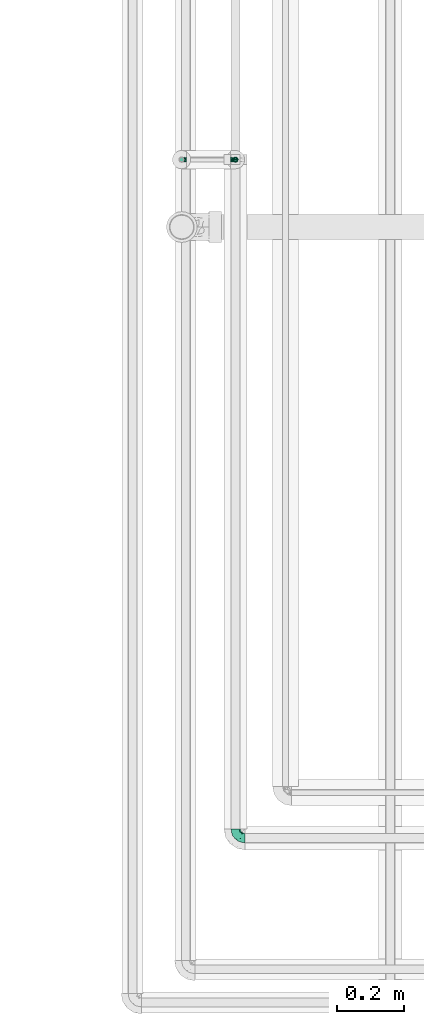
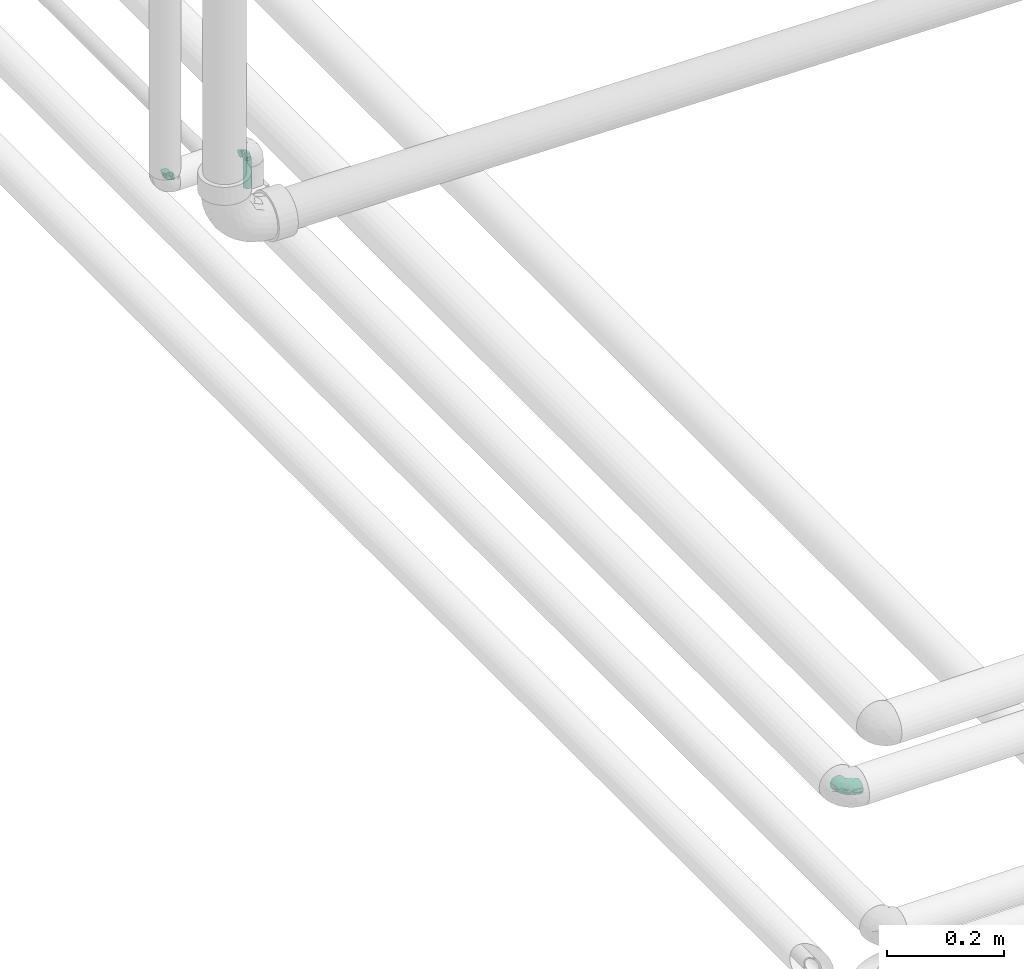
# One storey, part 41 of 83: 3 flow fittings, 1 flow segment.
"""IFC2X3 building model written with IfcOpenShell, lengths in millimetres."""

from ifc_helpers import new_model, entity, si_unit, converted_unit, derived_unit, direction, frame, origin_with_axes, origin_2d_with_axis, place, context, subcontext, project, spatial, hollow_circle, extrude, open_shell, surface_model, source, transform, mapped, type_object, element, save


model = new_model("IFC2X3")

# Units and contexts
model_context = context("Model", 3, precision=0.01, world=frame((0.0, 4.29681676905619e-09, 0.0)), true_north=direction((4.01073788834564e-13, 1.0)))
plan_context = context("Plan", 3, precision=0.01, world=frame((0.0, 4.29681676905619e-09, 0.0)), true_north=direction((4.01073788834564e-13, 1.0)))
body_context = subcontext(model_context, "Body", "Model", "MODEL_VIEW")
ifc_project = project(units=[converted_unit("PLANEANGLEUNIT", "DEGREE", entity("IfcPositiveLengthMeasure", 0.0174532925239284), si_unit("PLANEANGLEUNIT", "RADIAN"), dimensions=[0, 0, 0, 0, 0, 0, 0]), si_unit("AREAUNIT", "SQUARE_METRE"), si_unit("LENGTHUNIT", "METRE", prefix="MILLI"), si_unit("MASSUNIT", "GRAM", prefix="KILO"), si_unit("POWERUNIT", "WATT"), si_unit("PRESSUREUNIT", "PASCAL"), si_unit("FORCEUNIT", "NEWTON", prefix="KILO"), si_unit("ELECTRICVOLTAGEUNIT", "VOLT"), si_unit("ELECTRICCURRENTUNIT", "AMPERE"), si_unit("THERMODYNAMICTEMPERATUREUNIT", "DEGREE_CELSIUS"), si_unit("TIMEUNIT", "SECOND"), si_unit("VOLUMEUNIT", "CUBIC_METRE"), derived_unit("LINEARVELOCITYUNIT", [(si_unit("LENGTHUNIT", "METRE"), 1), (si_unit("TIMEUNIT", "SECOND"), -1)]), derived_unit("VOLUMETRICFLOWRATEUNIT", [(si_unit("VOLUMEUNIT", "CUBIC_METRE"), 1), (si_unit("TIMEUNIT", "SECOND"), -1)]), derived_unit("THERMALTRANSMITTANCEUNIT", [(si_unit("POWERUNIT", "WATT"), 1), (si_unit("THERMODYNAMICTEMPERATUREUNIT", "KELVIN"), -1), (si_unit("AREAUNIT", "SQUARE_METRE"), -1)]), derived_unit("SOUNDPRESSUREUNIT", [(si_unit("PRESSUREUNIT", "PASCAL"), 1)])], contexts=[model_context, plan_context])

# Site, building, storey
site_placement = place(None, frame((0.0, -4.29681676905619e-09, 0.0), z_axis=(0.0, 0.0, 1.0), x_axis=(1.0, 0.0, 0.0)))
site = spatial("IfcSite", under=ifc_project, at=site_placement, Name="ENGM", CompositionType="ELEMENT")
building_placement = place(site_placement, frame((0.0, 4.29681676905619e-09, 0.0), z_axis=(0.0, 0.0, 1.0), x_axis=(1.0, 0.0, 0.0)))
building = spatial("IfcBuilding", under=site, at=building_placement, Name="TI", CompositionType="ELEMENT")
storey_placement = place(building_placement, frame((0.0, 0.0, 204000.0), z_axis=(0.0, 0.0, 1.0), x_axis=(1.0, 0.0, 0.0)))
storey = spatial("IfcBuildingStorey", under=building, at=storey_placement, Name="Nivå D", CompositionType="ELEMENT", Elevation=204000.0)

# Flow fittings
pipe_fitting_type = type_object("IfcPipeFittingType", Name="magi_pipe_cu_elbow_short_001", PredefinedType="BEND")
shared_shape_1 = source(origin_with_axes(), body_context, "Body", "SurfaceModel", [
    surface_model("IfcShellBasedSurfaceModel", [(-28.0, 3.62347, -13.52296), (-28.0, 0.0, -14.0), (-28.0, 9.89949, -9.89949), (-28.0, 7.0, -12.12436), (-28.0, 13.52296, -3.62347), (-28.0, 12.12436, -7.0), (-28.0, -7.0, -12.12436), (-28.0, -9.89949, -9.89949), (-28.0, -3.62347, -13.52296), (-28.0, -13.52296, -3.62347), (-28.0, -12.12436, -7.0), (-28.0, -14.0, 0.0), (-28.0, -13.52296, 3.62347), (-28.0, 14.0, 0.0), (-28.0, 13.52296, 3.62347), (-28.0, 12.12436, 7.0), (-28.0, 9.89949, 9.89949), (-28.0, 3.62347, 13.52296), (-28.0, 7.0, 12.12436), (-28.0, 0.0, 14.0), (-28.0, -12.12436, 7.0), (-28.0, -9.89949, 9.89949), (-28.0, -3.62347, 13.52296), (-28.0, -7.0, 12.12436), (-9.89949, 28.0, -9.89949), (0.0, 28.0, -14.0), (-3.62347, 28.0, -13.52296), (-7.0, 28.0, -12.12436), (-14.0, 28.0, 0.0), (-12.12436, 28.0, -7.0), (9.89949, 28.0, -9.89949), (3.62347, 28.0, -13.52296), (7.0, 28.0, -12.12436), (13.52296, 28.0, -3.62347), (12.12436, 28.0, -7.0), (-13.52296, 28.0, 3.62347), (14.0, 28.0, 0.0), (-13.52296, 28.0, -3.62347), (-9.89949, 28.0, 9.89949), (-12.12436, 28.0, 7.0), (-7.0, 28.0, 12.12436), (-3.62347, 28.0, 13.52296), (13.52296, 28.0, 3.62347), (0.0, 28.0, 14.0), (9.89949, 28.0, 9.89949), (12.12436, 28.0, 7.0), (7.0, 28.0, 12.12436), (3.62347, 28.0, 13.52296), (-18.74729, -12.24672, 4.38175), (-20.4978, -10.87112, 7.8554), (-14.63098, -10.41778, 0.0), (-11.36869, -10.18884, 3.09687), (5.89274, 4.32805, 4.24468), (3.06694, 4.04075, 8.35629), (-0.17293, -0.734, 7.21134), (-12.21635, -8.85831, 7.04954), (-3.77138, -5.46958, 4.31404), (-21.31549, -12.20889, 0.0), (6.34939, 11.25924, 9.57712), (8.06481, 18.3168, 10.42711), (3.37486, 10.81192, 11.64293), (-18.31681, -8.06481, 10.42711), (-20.56266, -5.29223, 12.59496), (-21.38752, -1.85462, 13.76057), (-19.60454, 2.14601, 13.97614), (-10.81192, -3.37486, 11.64293), (-13.93831, -0.12564, 13.56955), (-21.5811, 5.49074, 13.225), (-21.95612, 11.65158, 9.17996), (-20.05772, 14.63261, 6.40071), (-24.5084, 13.14639, 5.80116), (-14.41344, 20.50581, 6.33709), (-4.86565, 13.76759, 13.97488), (-10.37, 10.37, 13.65983), (-8.33631, 6.11788, 13.92788), (-14.75744, 15.63504, 9.91683), (-24.22185, 8.47816, 11.40754), (-3.65439, 9.37683, 13.74657), (-6.95631, 2.56833, 13.07318), (-1.43023, 7.56381, 12.86583), (-23.31553, 14.32852, 3.52781), (-21.69779, 16.61046, 0.0), (-5.22595, 24.14907, 13.1135), (-1.91876, 20.94202, 13.96561), (5.29223, 20.56266, 12.59496), (-4.80832, -3.33944, 8.67628), (-2.5008, 2.5008, 11.44619), (1.85462, 21.38752, 13.76057), (10.87112, 20.4978, 7.8554), (8.85831, 12.21635, 7.04954), (12.24672, 18.74729, 4.38175), (-11.25924, -6.34939, 9.57712), (-15.37363, 21.10999, 3.25616), (-19.14983, 16.6358, 3.33834), (10.18884, 11.36869, 3.09687), (10.41778, 14.63098, 0.0), (12.20889, 21.31549, 0.0), (-18.10051, 18.10051, 0.0), (8.37307, 7.0, 0.0), (-11.50288, 18.59955, 10.71326), (-8.84699, 21.68272, 11.60426), (-11.55739, 22.32322, 9.13967), (-10.58943, 15.13428, 12.47628), (-6.05474, 18.97034, 13.33304), (-14.9522, 12.56273, 11.63436), (-7.0, -8.37307, 0.0), (-15.38425, 5.99686, 13.74946), (-13.73768, 3.4306, 13.99403), (-14.88363, 9.49937, 12.94918), (-8.15523, 14.5327, 13.41132), (0.12564, 13.93831, 13.56955), (-19.27864, 9.50344, 11.78944), (-1.06605, 0.88351, 9.56863), (-3.83005, -4.31684, 6.58349), (-3.15673, -4.5298, 0.0), (1.6378, -1.17307, 3.37596), (-16.61046, 21.69779, 0.0), (4.5298, 3.15673, 0.0), (0.68653, -0.68653, 0.0), (-22.16307, 1.77021, -13.95443), (-12.1112, 20.49304, -9.34219), (-20.84882, -12.5942, -4.60988), (-21.54235, 5.49691, -13.22664), (-19.10898, 16.60593, -3.53067), (-11.43732, -3.53319, -11.74569), (-12.15681, -0.17464, -13.31564), (-5.62502, -0.23427, -11.47155), (-20.32556, 9.17949, -11.70878), (-22.13531, 11.60457, -9.16028), (8.41708, 20.6911, -10.6019), (-16.88435, 12.82951, -10.55878), (-11.13704, -10.24959, -2.34743), (-4.84185, -6.54661, -3.36137), (-12.96604, 16.27159, -10.78023), (-9.97005, 17.11892, -12.15817), (-12.93887, 12.93887, -12.29249), (-1.2334, -2.64201, -5.92074), (1.22973, 2.47088, -8.8979), (5.16596, 4.11707, -5.50974), (-13.82252, 8.10203, -13.53774), (-19.77353, -10.77046, -7.78839), (-20.6911, -8.41708, -10.6019), (-5.71492, 20.3686, -13.27579), (12.5942, 20.84882, -4.60988), (-23.64458, -5.51923, -12.7416), (-12.09227, -8.27186, -7.82819), (-10.45313, -5.71095, -9.79365), (0.58937, 6.57638, -11.67536), (0.17464, 12.15681, -13.31564), (2.89353, 11.95196, -12.23037), (-23.72828, 14.45075, -2.39672), (-13.72718, 22.21732, -6.10198), (-14.65489, 22.72001, -3.11815), (10.77046, 19.77353, -7.78839), (-4.94234, 4.94234, -13.21976), (-17.01297, 16.64546, -6.86733), (-1.77021, 22.16307, -13.95443), (-8.78719, 21.97882, -11.58143), (1.76523, 20.62648, -13.74402), (5.51923, 23.64458, -12.7416), (-20.62648, -1.76523, -13.74402), (-17.72962, -4.83155, -12.45127), (-3.30956, 15.42318, -13.99698), (-7.57019, 8.16927, -13.99205), (-8.28388, 13.27199, -13.5833), (-6.87455, -6.54348, -6.32219), (9.88737, 10.40056, -2.49707), (6.89392, 5.1145, -2.73992), (0.30381, -2.5875, -3.00478), (-22.38273, 13.76108, -5.90633), (9.77824, 12.19087, -5.31295), (8.70689, 13.51955, -8.04189), (5.71095, 10.45313, -9.79365), (4.83155, 17.72962, -12.45127), (-4.06757, -2.72494, -8.72853), (6.23857, 7.82545, -7.6266), (-15.42318, 3.30956, -13.99698), (-16.05025, 23.05025, 0.0), (-12.19087, -9.77824, -5.31295), (3.79914, 1.24839, -3.50098), (-15.61294, 15.85577, -9.08381)], [open_shell([[[0, 1, 2]], [[3, 0, 2]], [[1, 4, 5]], [[2, 1, 5]], [[6, 7, 8]], [[9, 4, 1]], [[7, 1, 8]], [[10, 9, 7]], [[7, 9, 1]], [[11, 12, 9]], [[12, 4, 9]], [[13, 12, 14]], [[15, 14, 16]], [[17, 18, 16]], [[16, 14, 12]], [[17, 16, 19]], [[20, 21, 12]], [[21, 16, 12]], [[22, 19, 23]], [[21, 23, 19]], [[21, 19, 16]], [[4, 12, 13]], [[24, 25, 26]], [[24, 26, 27]], [[28, 24, 29]], [[24, 28, 25]], [[28, 30, 25]], [[31, 30, 32]], [[31, 25, 30]], [[30, 33, 34]], [[30, 35, 33]], [[33, 35, 36]], [[37, 28, 29]], [[36, 35, 38]], [[38, 35, 39]], [[38, 40, 41]], [[36, 38, 42]], [[43, 38, 41]], [[42, 44, 45]], [[42, 38, 44]], [[46, 43, 47]], [[43, 46, 44]], [[38, 43, 44]], [[35, 30, 28]], [[48, 49, 20]], [[48, 50, 51]], [[52, 53, 54]], [[55, 51, 56]], [[49, 21, 20]], [[57, 48, 12]], [[58, 59, 60]], [[61, 23, 21]], [[61, 62, 23]], [[19, 63, 64]], [[62, 65, 66]], [[59, 44, 46]], [[19, 22, 63]], [[67, 18, 17]], [[68, 69, 70]], [[39, 35, 71]], [[72, 73, 74]], [[69, 68, 75]], [[19, 64, 17]], [[18, 76, 16]], [[15, 16, 68]], [[77, 78, 79]], [[80, 81, 13]], [[41, 82, 83]], [[46, 84, 59]], [[85, 86, 65]], [[47, 43, 87]], [[88, 89, 90]], [[91, 65, 61]], [[43, 41, 83]], [[71, 92, 93]], [[90, 94, 95]], [[84, 46, 47]], [[88, 90, 45]], [[59, 84, 60]], [[42, 45, 90]], [[75, 71, 69]], [[23, 62, 22]], [[90, 96, 42]], [[97, 81, 93]], [[94, 98, 95]], [[92, 97, 93]], [[50, 48, 57]], [[70, 14, 15]], [[99, 100, 101]], [[38, 101, 100]], [[40, 38, 100]], [[102, 103, 100]], [[103, 72, 83]], [[82, 100, 103]], [[82, 41, 40]], [[99, 104, 102]], [[13, 14, 80]], [[67, 17, 64]], [[51, 50, 105]], [[48, 20, 12]], [[49, 55, 61]], [[45, 44, 88]], [[89, 52, 94]], [[106, 107, 74]], [[108, 67, 106]], [[38, 39, 101]], [[109, 102, 73]], [[103, 109, 72]], [[87, 83, 110]], [[76, 68, 16]], [[68, 111, 104]], [[65, 62, 61]], [[63, 62, 66]], [[91, 61, 55]], [[65, 86, 78]], [[87, 84, 47]], [[110, 79, 60]], [[110, 60, 84]], [[86, 112, 60]], [[55, 49, 48]], [[61, 21, 49]], [[44, 59, 88]], [[89, 88, 59]], [[106, 67, 64]], [[76, 67, 111]], [[53, 52, 89]], [[112, 86, 85]], [[56, 113, 55]], [[112, 54, 53]], [[58, 89, 59]], [[56, 51, 105]], [[114, 115, 56]], [[14, 70, 80]], [[69, 71, 93]], [[28, 116, 92]], [[92, 116, 97]], [[39, 71, 101]], [[75, 101, 71]], [[99, 102, 100]], [[108, 104, 111]], [[106, 74, 73]], [[110, 83, 72]], [[78, 74, 66]], [[72, 74, 77]], [[83, 87, 43]], [[84, 87, 110]], [[62, 63, 22]], [[64, 63, 66]], [[12, 11, 57]], [[96, 90, 95]], [[96, 36, 42]], [[115, 117, 52]], [[56, 105, 114]], [[55, 48, 51]], [[89, 94, 90]], [[52, 98, 94]], [[106, 64, 107]], [[108, 106, 73]], [[102, 108, 73]], [[67, 108, 111]], [[102, 104, 108]], [[68, 104, 75]], [[64, 66, 107]], [[66, 74, 107]], [[65, 78, 66]], [[79, 78, 86]], [[60, 79, 86]], [[77, 79, 110]], [[72, 77, 110]], [[78, 77, 74]], [[67, 76, 18]], [[68, 76, 111]], [[100, 82, 40]], [[83, 82, 103]], [[68, 70, 15]], [[80, 69, 93]], [[69, 80, 70]], [[80, 93, 81]], [[55, 85, 91]], [[85, 65, 91]], [[60, 53, 58]], [[53, 89, 58]], [[54, 112, 85]], [[60, 112, 53]], [[85, 113, 54]], [[113, 115, 54]], [[55, 113, 85]], [[115, 113, 56]], [[71, 35, 92]], [[115, 114, 118]], [[28, 92, 35]], [[101, 75, 99]], [[99, 75, 104]], [[72, 109, 73]], [[103, 102, 109]], [[54, 115, 52]], [[117, 115, 118]], [[117, 98, 52]], [[0, 119, 1]], [[29, 24, 120]], [[121, 57, 9]], [[3, 122, 0]], [[97, 123, 81]], [[124, 125, 126]], [[127, 2, 128]], [[30, 129, 32]], [[127, 128, 130]], [[131, 132, 105]], [[133, 134, 135]], [[127, 3, 2]], [[136, 137, 138]], [[139, 122, 127]], [[2, 5, 128]], [[10, 140, 121]], [[141, 140, 7]], [[26, 142, 27]], [[95, 143, 96]], [[144, 6, 8]], [[145, 141, 146]], [[33, 36, 96]], [[147, 148, 149]], [[140, 10, 7]], [[13, 81, 150]], [[130, 133, 135]], [[151, 152, 37]], [[153, 34, 143]], [[147, 154, 148]], [[37, 29, 151]], [[120, 155, 151]], [[30, 153, 129]], [[25, 156, 26]], [[26, 156, 142]], [[143, 34, 33]], [[24, 27, 157]], [[123, 152, 155]], [[158, 31, 159]], [[144, 160, 161]], [[122, 3, 127]], [[148, 162, 158]], [[157, 27, 142]], [[162, 163, 164]], [[159, 31, 32]], [[165, 136, 132]], [[34, 153, 30]], [[166, 98, 167]], [[160, 8, 1]], [[161, 160, 125]], [[95, 166, 143]], [[50, 131, 105]], [[121, 9, 10]], [[168, 114, 132]], [[150, 169, 4]], [[167, 98, 117]], [[31, 158, 25]], [[164, 142, 162]], [[133, 157, 134]], [[7, 6, 141]], [[165, 145, 146]], [[170, 171, 153]], [[129, 172, 173]], [[126, 137, 174]], [[175, 137, 172]], [[148, 158, 173]], [[156, 158, 162]], [[149, 172, 147]], [[148, 154, 163]], [[119, 160, 1]], [[176, 163, 125]], [[176, 125, 160]], [[125, 154, 126]], [[169, 128, 5]], [[127, 130, 135]], [[139, 127, 135]], [[119, 122, 176]], [[120, 151, 29]], [[152, 97, 177]], [[142, 164, 134]], [[120, 24, 157]], [[152, 28, 37]], [[81, 123, 150]], [[123, 155, 169]], [[152, 123, 97]], [[140, 178, 121]], [[121, 178, 131]], [[144, 141, 6]], [[146, 141, 161]], [[33, 96, 143]], [[170, 153, 143]], [[129, 153, 171]], [[159, 129, 173]], [[137, 147, 172]], [[126, 154, 147]], [[172, 171, 175]], [[174, 137, 136]], [[137, 126, 147]], [[126, 146, 124]], [[117, 118, 179]], [[179, 138, 167]], [[128, 169, 155]], [[5, 4, 169]], [[57, 121, 50]], [[57, 11, 9]], [[122, 119, 0]], [[160, 119, 176]], [[158, 156, 25]], [[142, 156, 162]], [[162, 148, 163]], [[139, 135, 164]], [[125, 163, 154]], [[139, 163, 176]], [[163, 139, 164]], [[122, 139, 176]], [[155, 180, 128]], [[180, 120, 133]], [[180, 133, 130]], [[157, 133, 120]], [[142, 134, 157]], [[164, 135, 134]], [[128, 180, 130]], [[120, 180, 155]], [[152, 151, 155]], [[28, 152, 177]], [[169, 150, 123]], [[13, 150, 4]], [[121, 131, 50]], [[178, 165, 132]], [[178, 132, 131]], [[168, 132, 136]], [[145, 165, 178]], [[174, 165, 146]], [[178, 140, 145]], [[141, 145, 140]], [[179, 136, 138]], [[170, 166, 167]], [[168, 179, 118]], [[170, 167, 138]], [[143, 166, 170]], [[95, 98, 166]], [[117, 179, 167]], [[136, 179, 168]], [[129, 159, 32]], [[158, 159, 173]], [[160, 144, 8]], [[141, 144, 161]], [[175, 170, 138]], [[129, 171, 172]], [[170, 175, 171]], [[137, 175, 138]], [[148, 173, 149]], [[172, 149, 173]], [[165, 174, 136]], [[126, 174, 146]], [[146, 161, 124]], [[125, 124, 161]], [[114, 168, 118]], [[114, 105, 132]]])]),
])
flow_fitting_placement = place(storey_placement, frame((599881.50429, 691635.97914, 6220.0), z_axis=(0.0, 0.0, 1.0), x_axis=(0.0, -1.0, 0.0)))
element("IfcFlowFitting", 1, at=flow_fitting_placement, inside=storey, type_object=pipe_fitting_type, Name="magi_pipe_cu_elbow_short_001", context=body_context, shape_type="MappedRepresentation", body=[
    mapped(shared_shape_1, transform((0.0, 0.0, 0.0), scale=1.0)),
])
shared_shape_2 = source(origin_with_axes(), body_context, "Body", "SurfaceModel", [
    surface_model("IfcShellBasedSurfaceModel", [(-15.0, 0.0, -7.5), (-15.0, -6.49519, -3.75), (-15.0, 1.94114, -7.24444), (-15.0, 3.75, -6.49519), (-15.0, 5.3033, -5.3033), (-15.0, 7.24444, -1.94114), (-15.0, 6.49519, -3.75), (-15.0, -5.3033, -5.3033), (-15.0, -3.75, -6.49519), (-15.0, -1.94114, -7.24444), (-15.0, -7.24444, -1.94114), (-15.0, -7.5, 0.0), (-15.0, -6.49519, 3.75), (-15.0, 7.24444, 1.94114), (-15.0, 6.49519, 3.75), (-15.0, 3.75, 6.49519), (-15.0, 1.94114, 7.24444), (-15.0, 5.3033, 5.3033), (-15.0, -5.3033, 5.3033), (-15.0, -7.24444, 1.94114), (-15.0, -1.94114, 7.24444), (-15.0, 0.0, 7.5), (-15.0, -3.75, 6.49519), (-15.0, 7.5, 0.0), (-1.94114, 15.0, -7.24444), (6.49519, 15.0, -3.75), (0.0, 15.0, -7.5), (-5.3033, 15.0, -5.3033), (-3.75, 15.0, -6.49519), (-6.49519, 15.0, -3.75), (-7.24444, 15.0, -1.94114), (3.75, 15.0, -6.49519), (5.3033, 15.0, -5.3033), (1.94114, 15.0, -7.24444), (7.5, 15.0, 0.0), (7.24444, 15.0, -1.94114), (-7.5, 15.0, 0.0), (-7.24444, 15.0, 1.94114), (-6.49519, 15.0, 3.75), (-3.75, 15.0, 6.49519), (-1.94114, 15.0, 7.24444), (-5.3033, 15.0, 5.3033), (5.3033, 15.0, 5.3033), (6.49519, 15.0, 3.75), (7.24444, 15.0, 1.94114), (3.75, 15.0, 6.49519), (0.0, 15.0, 7.5), (1.94114, 15.0, 7.24444), (-13.40845, -7.07355, 0.0), (-8.7589, -2.47707, 6.60232), (-8.6338, -5.79418, 0.0), (-3.75, -4.48557, 0.0), (0.36779, -0.36779, 0.0), (2.42668, 1.69111, 0.0), (-2.25176, 0.98822, 6.3797), (-1.69111, -2.42668, 0.0), (-11.8169, -6.64709, 0.0), (-5.9304, 5.9304, 7.17811), (-4.11647, 8.02676, 7.20749), (2.47708, 8.7589, 6.60232), (1.67739, 4.87408, 5.99192), (4.48557, 3.75, 0.0), (-4.78013, -1.73268, 5.91836), (7.07355, 13.40845, 0.0), (6.64709, 11.8169, 0.0), (-8.02675, 4.11647, 7.20749), (-8.59835, 12.34835, 0.0), (-12.34835, 8.59835, 0.0), (-9.6967, 9.6967, 0.0), (5.79418, 8.6338, 0.0), (-8.7589, -2.47707, -6.60232), (-4.11647, 8.02676, -7.20749), (0.71542, 3.43733, -5.99192), (-2.23993, 1.78364, -6.69976), (2.47708, 8.7589, -6.60232), (-11.39207, 6.08032, -5.22727), (-7.08629, 1.82323, -7.49084), (-8.19523, 6.76007, -6.13545)], [open_shell([[[0, 1, 2]], [[3, 2, 4]], [[5, 6, 4]], [[4, 2, 1]], [[5, 4, 1]], [[7, 1, 8]], [[9, 8, 1]], [[10, 11, 1]], [[0, 9, 1]], [[11, 12, 1]], [[12, 5, 1]], [[13, 5, 12]], [[14, 13, 15]], [[13, 16, 15]], [[17, 14, 15]], [[16, 13, 12]], [[12, 18, 16]], [[12, 11, 19]], [[20, 21, 22]], [[18, 22, 21]], [[16, 18, 21]], [[13, 23, 5]], [[24, 25, 26]], [[27, 24, 28]], [[27, 29, 30]], [[25, 24, 27]], [[25, 27, 30]], [[31, 25, 32]], [[25, 31, 33]], [[25, 34, 35]], [[25, 33, 26]], [[30, 34, 25]], [[30, 36, 34]], [[36, 37, 38]], [[36, 38, 39]], [[40, 34, 39]], [[39, 38, 41]], [[40, 42, 34]], [[42, 43, 34]], [[44, 34, 43]], [[45, 46, 47]], [[45, 42, 40]], [[45, 40, 46]], [[39, 34, 36]], [[19, 48, 12]], [[49, 50, 51]], [[52, 53, 54]], [[54, 55, 52]], [[22, 18, 56]], [[12, 56, 18]], [[57, 54, 58]], [[22, 50, 20]], [[21, 20, 50]], [[59, 60, 61]], [[59, 58, 60]], [[55, 54, 62]], [[21, 50, 49]], [[21, 49, 16]], [[62, 49, 51]], [[62, 51, 55]], [[43, 63, 44]], [[49, 15, 16]], [[64, 63, 43]], [[13, 65, 23]], [[14, 17, 49]], [[54, 65, 62]], [[15, 49, 17]], [[57, 58, 66]], [[67, 57, 68]], [[53, 60, 54]], [[47, 46, 69]], [[69, 45, 47]], [[41, 59, 39]], [[40, 59, 46]], [[42, 45, 64]], [[54, 60, 58]], [[64, 45, 69]], [[61, 60, 53]], [[44, 63, 34]], [[59, 61, 69]], [[58, 36, 66]], [[22, 56, 50]], [[54, 57, 65]], [[49, 65, 14]], [[37, 36, 58]], [[64, 43, 42]], [[38, 37, 58]], [[14, 65, 13]], [[41, 38, 59]], [[19, 11, 48]], [[38, 58, 59]], [[48, 56, 12]], [[39, 59, 40]], [[59, 69, 46]], [[49, 62, 65]], [[57, 67, 65]], [[66, 68, 57]], [[67, 23, 65]], [[70, 50, 0]], [[71, 72, 73]], [[74, 71, 29]], [[70, 2, 3]], [[70, 51, 50]], [[35, 34, 63]], [[75, 4, 6]], [[75, 5, 23]], [[6, 5, 75]], [[51, 76, 55]], [[75, 23, 67]], [[70, 4, 75]], [[48, 11, 10]], [[8, 56, 7]], [[0, 50, 9]], [[51, 70, 76]], [[56, 8, 50]], [[8, 9, 50]], [[70, 0, 2]], [[66, 36, 71]], [[52, 72, 53]], [[4, 70, 3]], [[70, 75, 76]], [[73, 52, 55]], [[71, 68, 66]], [[61, 53, 72]], [[31, 64, 69]], [[30, 71, 36]], [[27, 74, 29]], [[56, 1, 7]], [[28, 24, 74]], [[63, 64, 25]], [[56, 48, 1]], [[28, 74, 27]], [[1, 48, 10]], [[26, 74, 24]], [[33, 69, 26]], [[29, 71, 30]], [[32, 64, 31]], [[69, 33, 31]], [[68, 71, 77]], [[74, 26, 69]], [[25, 35, 63]], [[61, 72, 74]], [[61, 74, 69]], [[67, 77, 75]], [[74, 72, 71]], [[25, 64, 32]], [[76, 77, 73]], [[75, 77, 76]], [[77, 71, 73]], [[55, 76, 73]], [[72, 52, 73]], [[77, 67, 68]]])]),
])
for number, where, z_axis, x_axis, name in (
    (2, (599719.29255, 693675.702, 6315.0), (0.0, -1.0, 0.0), (0.0, 0.0, -1.0), "magi_pipe_cu_elbow_short_001"),
    (3, (599881.50429, 693675.702, 6315.0), (0.0, -1.0, 0.0), (0.0, 0.0, 1.0), "magi_pipe_cu_elbow_short_001"),
):
    element("IfcFlowFitting", number, at=place(storey_placement, frame(where, z_axis=z_axis, x_axis=x_axis)), inside=storey, type_object=pipe_fitting_type, Name=name, context=body_context, shape_type="MappedRepresentation", body=[
        mapped(shared_shape_2, transform((0.0, 0.0, 0.0), scale=1.0)),
    ])

# Flow segment
pipe_segment_type = type_object("IfcPipeSegmentType", Name="Kobberrør", PredefinedType="RIGIDSEGMENT")
shared_shape_3 = source(origin_with_axes(), body_context, "Body", "SweptSolid", [
    extrude(hollow_circle(Radius=7.5, WallThickness=2.0, at=origin_2d_with_axis()), frame((0.0, 0.0, 0.0), z_axis=(1.0, 0.0, 0.0), x_axis=(0.0, 1.0, 0.0)), (0.0, 0.0, 1.0), 59.0),
])
flow_segment_placement = place(storey_placement, frame((599881.50429, 693675.702, 6241.0), z_axis=(1.0, 0.0, 0.0), x_axis=(0.0, 0.0, 1.0)))
element("IfcFlowSegment", 4, at=flow_segment_placement, inside=storey, type_object=pipe_segment_type, Name="Kobberrør", context=body_context, shape_type="MappedRepresentation", body=[
    mapped(shared_shape_3, transform((0.0, 0.0, 0.0), scale=1.0)),
])

save(model, "model.ifc")
